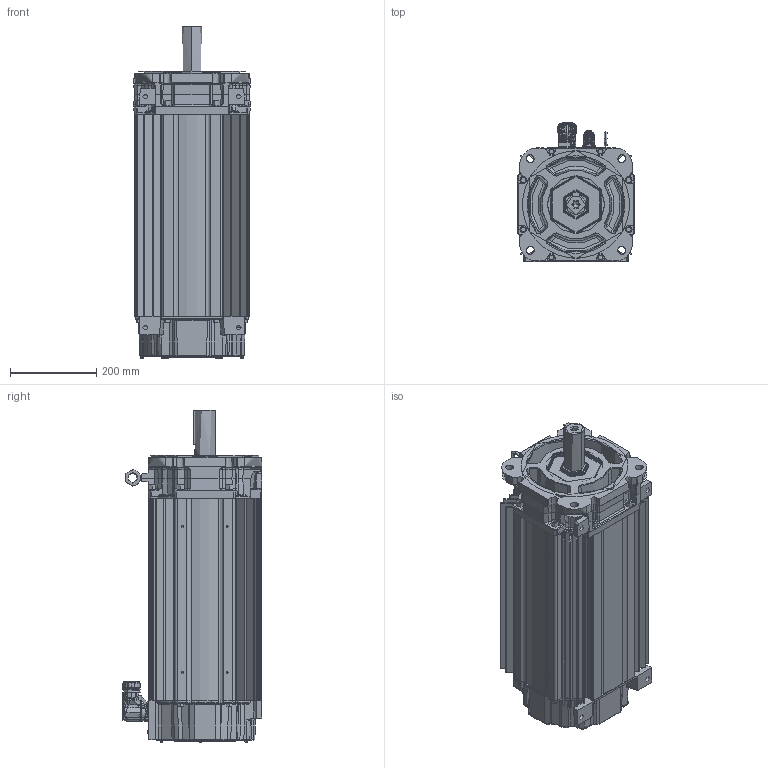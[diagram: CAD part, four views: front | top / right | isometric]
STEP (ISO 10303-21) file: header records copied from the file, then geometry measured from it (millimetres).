
FILE_DESCRIPTION((''),'2;1');
FILE_NAME('10001442216_ASM','2020-01-16T12:07:07',('VThimma'),('Rockwell Automation'),'CREO PARAMETRIC BY PTC INC, 2017380','CREO PARAMETRIC BY PTC INC, 2017380','');
FILE_SCHEMA(('CONFIG_CONTROL_DESIGN','SHAPE_APPEARANCE_LAYERS_GROUPS'));
Products named in the file (26): 10001441960; 10001404634_AF0; 10001404629_AF6; 10001404635_ASM; 10001585735; 10001442014_ASM; 10001439812; 10001440033_ASM; 10001405269_AF0; 10001405367_ASM; 10001586887; 0002-5004; 10001609981; 10001737030; 10000014325-2; 10000014331; 10000014332-460; 10000014330-460_ASM; 10000172464; PWR40CONN-BRK; PWR40BASE; 10000806125_ASM; 221404-Q12; 10001408124; 0011-2084; 10001442216_ASM
Assembly tree (51 placements, depth 4):
  10001442216_ASM
    10001442014_ASM
      10001441960
      10001404635_ASM
        10001404634_AF0
        10001404629_AF6
      10001585735  x8
    10001440033_ASM
      10001439812
    10001405367_ASM
      10001405269_AF0
    10001586887  x7
    0002-5004  x2
    10001609981
    10001737030
    10000014330-460_ASM
      10000014325-2
      10000014331
      10000014332-460
    10000172464  x4
    10000806125_ASM
      PWR40CONN-BRK
      PWR40BASE
    221404-Q12  x10
    10001408124
    0011-2084
Bounding box: 269.49 x 324.05 x 768.83 mm (x, y, z)
Topology: 0 solids, 62 shells, 7063 faces, 18363 edges, 11419 vertices
Faces by surface type: cylinder 2233, plane 1662, bspline 1506, torus 877, cone 579, sphere 163, extrusion 42, revolution 1
Entity records: 357844 total; most frequent: CARTESIAN_POINT 136742, ORIENTED_EDGE 30239, DIRECTION 25567, PRESENTATION_STYLE_ASSIGNMENT 20998, STYLED_ITEM 20998, CURVE_STYLE 15229, EDGE_CURVE 15187, AXIS2_PLACEMENT_3D 10371
